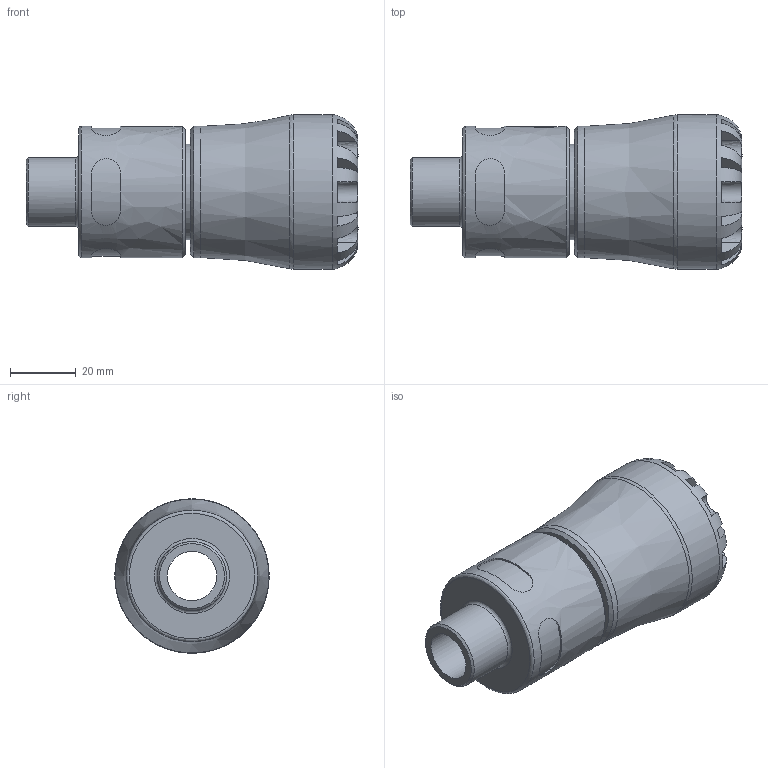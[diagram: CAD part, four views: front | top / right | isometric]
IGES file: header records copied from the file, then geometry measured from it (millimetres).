
Global section: file name: 10N200025005_10N2G0025005; native system: Autodesk Inventor 2019; preprocessor: unknown; author: KIM; date: 20240312.131908; units: millimetre
Bounding box: 101 x 47 x 46.99 mm (x, y, z)
Volume: 87801.1 mm3; surface area: 22916.4 mm2
Topology: 1 solids, 1 shells, 106 faces, 279 edges, 182 vertices
Faces by surface type: bspline 106
